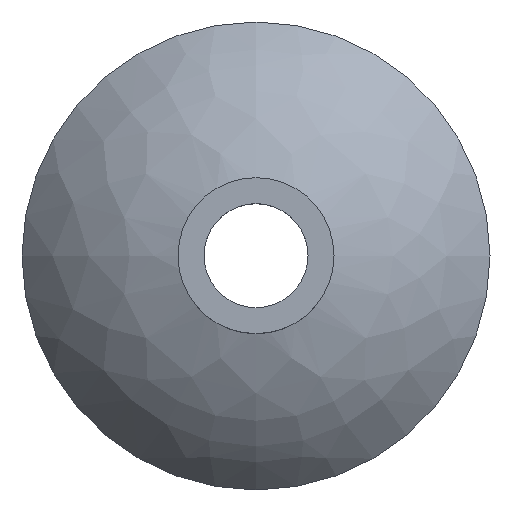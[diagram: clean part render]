
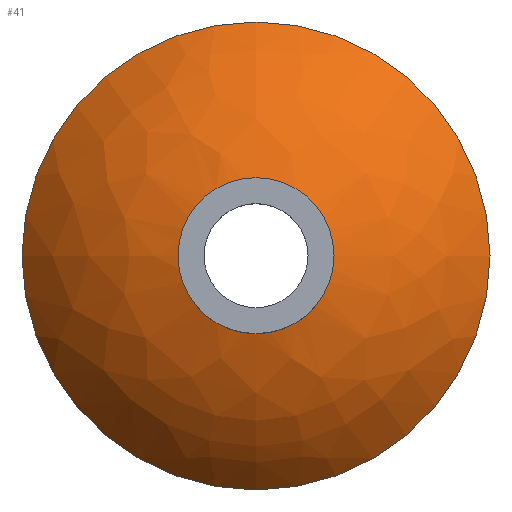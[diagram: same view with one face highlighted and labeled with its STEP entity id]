
A CAD part, top view. The second image highlights one B-rep face of the part: STEP entity #41.
In plain terms, the highlighted free-form (B-spline) face has degree [3, 3] with [4, 7] control points.
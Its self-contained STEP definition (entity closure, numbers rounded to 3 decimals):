
#41=ADVANCED_FACE('',(#82,#83),#84,.T.);
#82=FACE_OUTER_BOUND('',#117,.T.);
#83=FACE_OUTER_BOUND('',#118,.T.);
#84=(B_SPLINE_SURFACE(3,3,((#120,#121,#122,#123,#124,#125,#126),(#127,#128,#129,#130,#131,#132,#133),(#134,#135,#136,#137,#138,#139,#140),(#141,#142,#143,#144,#145,#146,#147)),.UNSPECIFIED.,.F.,.T.,.F.)B_SPLINE_SURFACE_WITH_KNOTS((4,4),(4,3,4),(0.0,6.283),(-1.322,-0.983,-0.643),.UNSPECIFIED.)RATIONAL_B_SPLINE_SURFACE(((1.0,0.333,0.333,1.0,0.333,0.333,1.0),(0.962,0.321,0.321,0.962,0.321,0.321,0.962),(0.962,0.321,0.321,0.962,0.321,0.321,0.962),(1.0,0.333,0.333,1.0,0.333,0.333,1.0)))BOUNDED_SURFACE()REPRESENTATION_ITEM('')GEOMETRIC_REPRESENTATION_ITEM()SURFACE());
#117=EDGE_LOOP('',(#224));
#118=EDGE_LOOP('',(#225));
#120=CARTESIAN_POINT('',(-22.5,0.0,-10.));
#121=CARTESIAN_POINT('',(-22.5,45.0,-10.));
#122=CARTESIAN_POINT('',(22.5,45.0,-10.));
#123=CARTESIAN_POINT('',(22.5,0.0,-10.));
#124=CARTESIAN_POINT('',(22.5,-45.0,-10.));
#125=CARTESIAN_POINT('',(-22.5,-45.0,-10.));
#126=CARTESIAN_POINT('',(-22.5,0.0,-10.));
#127=CARTESIAN_POINT('',(-18.752,0.0,-5.002));
#128=CARTESIAN_POINT('',(-18.752,37.504,-5.002));
#129=CARTESIAN_POINT('',(18.752,37.504,-5.002));
#130=CARTESIAN_POINT('',(18.752,0.0,-5.002));
#131=CARTESIAN_POINT('',(18.752,-37.504,-5.002));
#132=CARTESIAN_POINT('',(-18.752,-37.504,-5.002));
#133=CARTESIAN_POINT('',(-18.752,0.0,-5.002));
#134=CARTESIAN_POINT('',(-13.555,0.0,-1.537));
#135=CARTESIAN_POINT('',(-13.555,27.109,-1.537));
#136=CARTESIAN_POINT('',(13.555,27.109,-1.537));
#137=CARTESIAN_POINT('',(13.555,0.0,-1.537));
#138=CARTESIAN_POINT('',(13.555,-27.109,-1.537));
#139=CARTESIAN_POINT('',(-13.555,-27.109,-1.537));
#140=CARTESIAN_POINT('',(-13.555,0.0,-1.537));
#141=CARTESIAN_POINT('',(-7.5,0.0,0.));
#142=CARTESIAN_POINT('',(-7.5,15.0,0.));
#143=CARTESIAN_POINT('',(7.5,15.0,0.));
#144=CARTESIAN_POINT('',(7.5,0.0,0.));
#145=CARTESIAN_POINT('',(7.5,-15.0,0.));
#146=CARTESIAN_POINT('',(-7.5,-15.0,0.));
#147=CARTESIAN_POINT('',(-7.5,0.0,0.));
#224=ORIENTED_EDGE('',*,*,#236,.F.);
#225=ORIENTED_EDGE('',*,*,#238,.T.);
#236=EDGE_CURVE('',#254,#254,#255,.T.);
#238=EDGE_CURVE('',#257,#257,#258,.T.);
#254=VERTEX_POINT('',#275);
#255=CIRCLE('',#276,22.5);
#257=VERTEX_POINT('',#278);
#258=CIRCLE('',#279,7.5);
#275=CARTESIAN_POINT('',(-22.5,0.0,-10.0));
#276=AXIS2_PLACEMENT_3D('',#297,#298,#299);
#278=CARTESIAN_POINT('',(-7.5,0.0,0.));
#279=AXIS2_PLACEMENT_3D('',#300,#301,#302);
#297=CARTESIAN_POINT('',(0.0,0.0,-10.0));
#298=DIRECTION('',(0.0,0.0,-1.0));
#299=DIRECTION('',(-1.0,0.0,0.0));
#300=CARTESIAN_POINT('',(0.0,0.0,0.));
#301=DIRECTION('',(0.0,0.0,-1.0));
#302=DIRECTION('',(-1.0,0.0,0.0));
